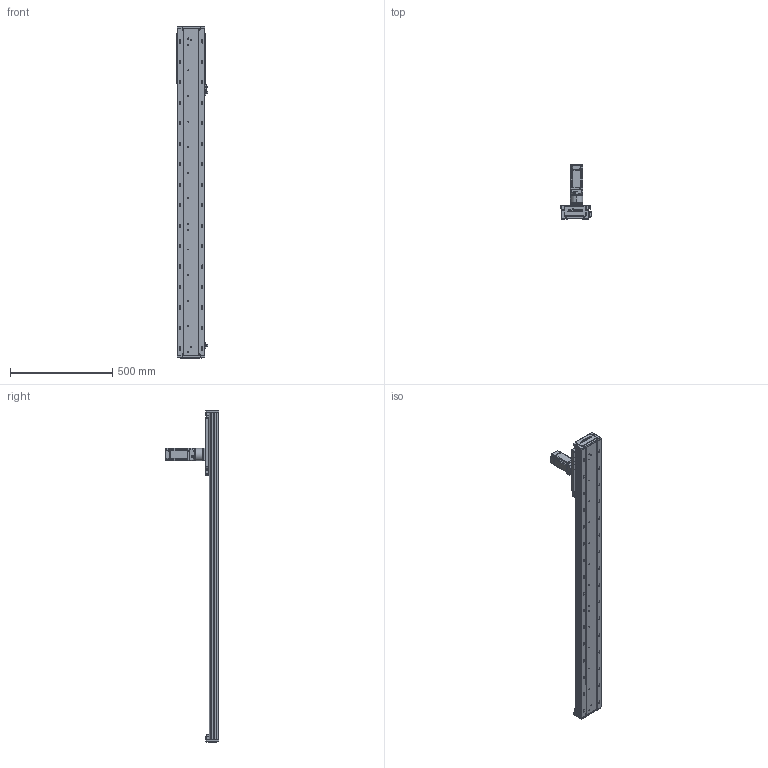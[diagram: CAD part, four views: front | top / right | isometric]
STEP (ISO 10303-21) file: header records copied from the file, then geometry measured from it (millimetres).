
FILE_DESCRIPTION (( 'STEP AP203' ), '1' );
FILE_NAME ('RY140-C-250-UK.SLDASM_1250.step', '2022-03-12T01:59:02', ( '' ), ( '' ), 'SwSTEP 2.0', 'SolidWorks 2016', '' );
FILE_SCHEMA (( 'CONFIG_CONTROL_DESIGN' ));
Length unit declared in the file: millimetre
Products named in the file (12): 60ZDF珨撰俋倛芞T1 200W M4; RY140-C-250-UK.SLDASM_1250; 絳寢賑輸EGH15; RY140-喘沭裔啣; 15; RY120外置感应片(140共用）; RY140-300齿条模组型材底座_1250; RY140-喘沭賑輸; RY140-絳寢EGH15-300-MK_1250; 140蚥薯蝶輸; RY140-喘謫萇儂覃誹啣; 覜茼ん672
Assembly tree (21 placements, depth 2):
  RY140-C-250-UK.SLDASM_1250
    RY140-300齿条模组型材底座_1250
    RY140-絳寢EGH15-300-MK_1250  x2
    絳寢賑輸EGH15  x6
    RY140-喘沭裔啣  x2
    覜茼ん672  x3
    RY140-喘沭賑輸
    RY120外置感应片(140共用）
    RY140-喘謫萇儂覃誹啣
    140蚥薯蝶輸  x2
    60ZDF珨撰俋倛芞T1 200W M4
    15
Bounding box: 153.7 x 263.5 x 1622 mm (x, y, z)
Volume: 5660115.4 mm3; surface area: 1501879.5 mm2
Topology: 21 solids, 21 shells, 3554 faces, 9470 edges, 6120 vertices
Faces by surface type: plane 1660, cylinder 1592, cone 256, bspline 46
Entity records: 80477 total; most frequent: CARTESIAN_POINT 17679, DIRECTION 12789, ORIENTED_EDGE 12762, EDGE_CURVE 6381, AXIS2_PLACEMENT_3D 4579, VERTEX_POINT 4177, VECTOR 3631, LINE 3631
